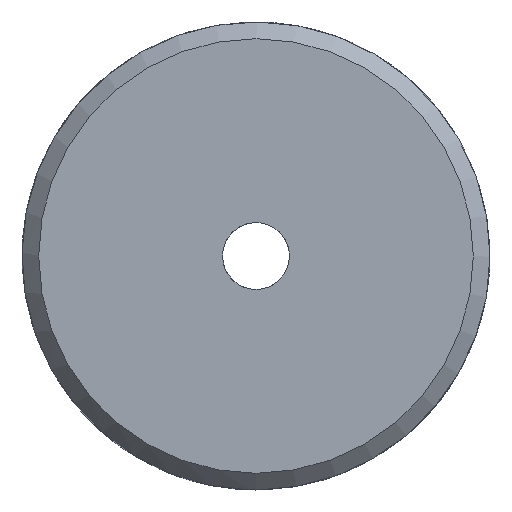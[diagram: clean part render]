
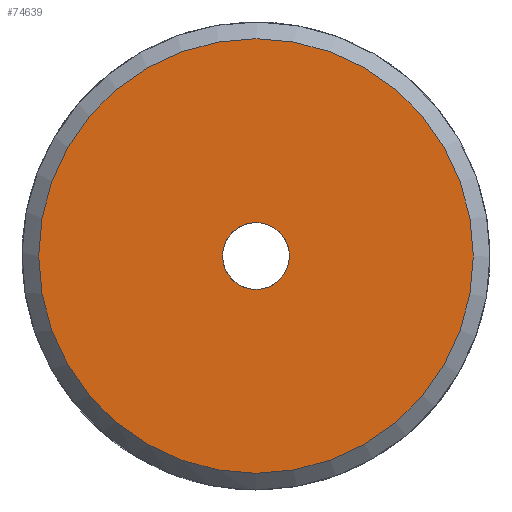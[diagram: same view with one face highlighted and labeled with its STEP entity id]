
A CAD part, left-side view. The second image highlights one B-rep face of the part: STEP entity #74639.
In plain terms, the highlighted planar face has unit normal (-1, 0, 0).
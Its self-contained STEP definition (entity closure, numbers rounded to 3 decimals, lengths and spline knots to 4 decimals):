
#21267=PLANE('',#73691);
#27440=ORIENTED_EDGE('',*,*,#29539,.F.);
#27441=ORIENTED_EDGE('',*,*,#31661,.F.);
#27443=CIRCLE('',#72329,6.5);
#28125=CIRCLE('',#73690,1.);
#28127=VERTEX_POINT('',#35843);
#29537=VERTEX_POINT('',#72322);
#29539=EDGE_CURVE('',#28127,#28127,#27443,.T.);
#31661=EDGE_CURVE('',#29537,#29537,#28125,.T.);
#32382=EDGE_LOOP('',(#27440));
#32383=EDGE_LOOP('',(#27441));
#33104=FACE_BOUND('',#32382,.T.);
#33105=FACE_BOUND('',#32383,.T.);
#33110=DIRECTION('',(1.,0.,0.));
#33111=DIRECTION('',(0.,-6.5,0.));
#35832=DIRECTION('',(-1.,0.,0.));
#35833=DIRECTION('',(0.,-1.,0.));
#35834=DIRECTION('',(-1.,0.,0.));
#35835=DIRECTION('',(0.,1.,0.));
#35843=CARTESIAN_POINT('',(21.3185,156.1362,0.));
#35844=CARTESIAN_POINT('',(21.3185,162.6362,0.));
#72322=CARTESIAN_POINT('',(21.3185,161.6362,0.));
#72323=CARTESIAN_POINT('',(21.3185,162.6362,0.));
#72324=CARTESIAN_POINT('',(21.3185,156.1362,0.));
#72329=AXIS2_PLACEMENT_3D('',#35844,#33110,#33111);
#73690=AXIS2_PLACEMENT_3D('',#72323,#35832,#35833);
#73691=AXIS2_PLACEMENT_3D('',#72324,#35834,#35835);
#74639=ADVANCED_FACE('',(#33104,#33105),#21267,.T.);
